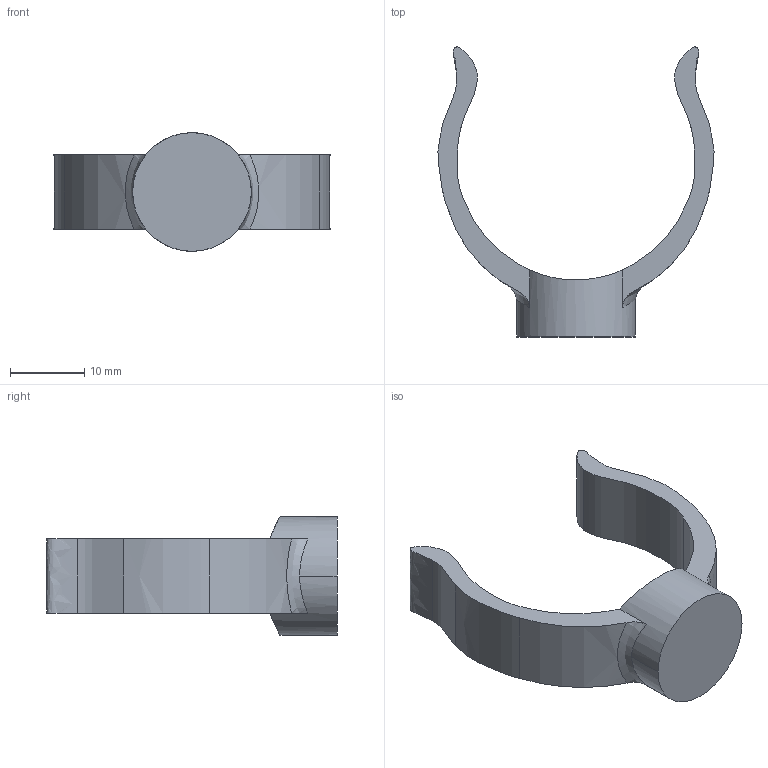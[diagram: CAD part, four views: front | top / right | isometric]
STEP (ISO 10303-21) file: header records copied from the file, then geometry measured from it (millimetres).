
FILE_DESCRIPTION (( 'STEP AP203' ), '1' );
FILE_NAME ('collier N1-v2.STEP', '2025-09-04T13:44:38', ( '' ), ( '' ), 'SwSTEP 2.0', 'SolidWorks 2024', '' );
FILE_SCHEMA (( 'CONFIG_CONTROL_DESIGN' ));
Length unit declared in the file: millimetre
Products named in the file (1): collier N1-v2
Bounding box: 37.23 x 39.11 x 16 mm (x, y, z)
Volume: 3526.6 mm3; surface area: 2605.2 mm2
Topology: 1 solids, 1 shells, 26 faces, 72 edges, 48 vertices
Faces by surface type: bspline 12, cylinder 7, plane 7
Entity records: 1303 total; most frequent: CARTESIAN_POINT 645, ORIENTED_EDGE 144, DIRECTION 84, EDGE_CURVE 72, VERTEX_POINT 48, B_SPLINE_CURVE_WITH_KNOTS 32, AXIS2_PLACEMENT_3D 29, ADVANCED_FACE 26
